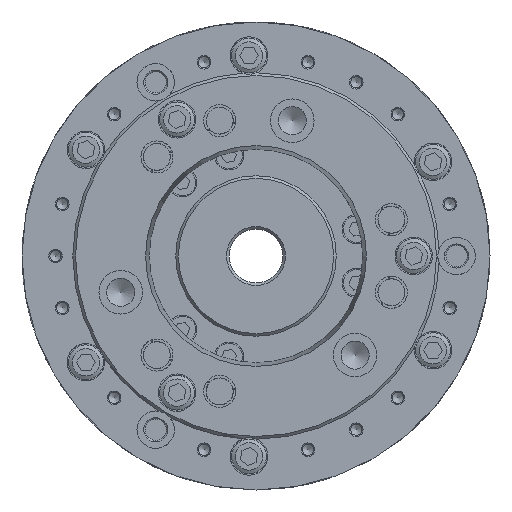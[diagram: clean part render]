
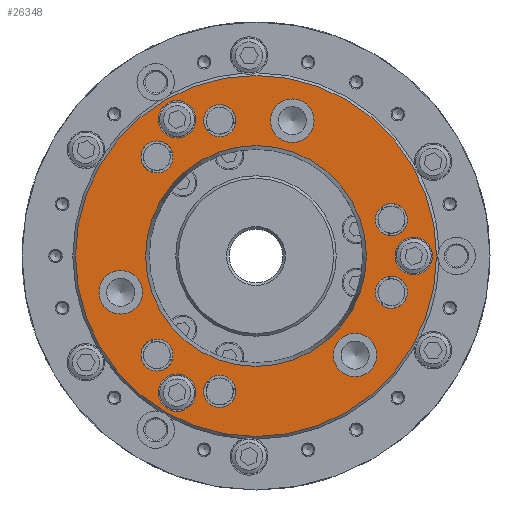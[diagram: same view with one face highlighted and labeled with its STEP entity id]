
A CAD part, left-side view. The second image highlights one B-rep face of the part: STEP entity #26348.
In plain terms, the highlighted planar face has unit normal (-1, 0, 0).
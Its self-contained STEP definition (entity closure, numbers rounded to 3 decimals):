
#305 = DIRECTION ( 'NONE',  ( 0., 0., 1. ) ) ;
#516 = CIRCLE ( 'NONE', #50851, 7. ) ;
#862 = VERTEX_POINT ( 'NONE', #50616 ) ;
#974 = ORIENTED_EDGE ( 'NONE', *, *, #29362, .T. ) ;
#1268 = FACE_BOUND ( 'NONE', #29846, .T. ) ;
#1476 = CARTESIAN_POINT ( 'NONE',  ( -95., 29.5, -51.095 ) ) ;
#1607 = EDGE_CURVE ( 'NONE', #58508, #58508, #27416, .T. ) ;
#1718 = FACE_BOUND ( 'NONE', #64974, .T. ) ;
#1866 = EDGE_LOOP ( 'NONE', ( #12993 ) ) ;
#2582 = AXIS2_PLACEMENT_3D ( 'NONE', #62316, #52143, #6554 ) ;
#2590 = FACE_BOUND ( 'NONE', #16090, .T. ) ;
#3552 = DIRECTION ( 'NONE',  ( -1., 0., 0. ) ) ;
#3983 = DIRECTION ( 'NONE',  ( 0., -0.866, -0.5 ) ) ;
#4335 = EDGE_CURVE ( 'NONE', #44246, #44246, #8217, .T. ) ;
#4579 = DIRECTION ( 'NONE',  ( -1., 0., 0. ) ) ;
#4590 = EDGE_LOOP ( 'NONE', ( #62766 ) ) ;
#5617 = DIRECTION ( 'NONE',  ( 1., 0., 0. ) ) ;
#6554 = DIRECTION ( 'NONE',  ( 0., 0., 1. ) ) ;
#6642 = FACE_BOUND ( 'NONE', #27520, .T. ) ;
#6841 = CARTESIAN_POINT ( 'NONE',  ( -95., 13.56, -50.605 ) ) ;
#8060 = EDGE_CURVE ( 'NONE', #25330, #25330, #20662, .T. ) ;
#8217 = CIRCLE ( 'NONE', #55046, 67.5 ) ;
#8685 = VERTEX_POINT ( 'NONE', #30759 ) ;
#8833 = FACE_BOUND ( 'NONE', #13578, .T. ) ;
#9681 = EDGE_CURVE ( 'NONE', #62450, #62450, #48811, .T. ) ;
#9862 = EDGE_LOOP ( 'NONE', ( #42633 ) ) ;
#10106 = ORIENTED_EDGE ( 'NONE', *, *, #1607, .F. ) ;
#10219 = VERTEX_POINT ( 'NONE', #15089 ) ;
#10963 = AXIS2_PLACEMENT_3D ( 'NONE', #1476, #25879, #26769 ) ;
#11095 = CARTESIAN_POINT ( 'NONE',  ( -95., -59., 0. ) ) ;
#11801 = FACE_BOUND ( 'NONE', #1866, .T. ) ;
#12460 = VERTEX_POINT ( 'NONE', #58075 ) ;
#12793 = DIRECTION ( 'NONE',  ( 1., 0., 0. ) ) ;
#12993 = ORIENTED_EDGE ( 'NONE', *, *, #9681, .T. ) ;
#13138 = CARTESIAN_POINT ( 'NONE',  ( -95., 37.045, -43.045 ) ) ;
#13578 = EDGE_LOOP ( 'NONE', ( #31024 ) ) ;
#13860 = DIRECTION ( 'NONE',  ( -1., 0., 0. ) ) ;
#14056 = CARTESIAN_POINT ( 'NONE',  ( -95., 29.5, 51.095 ) ) ;
#14132 = VERTEX_POINT ( 'NONE', #51478 ) ;
#14228 = CARTESIAN_POINT ( 'NONE',  ( -95., -37.045, -28.905 ) ) ;
#15089 = CARTESIAN_POINT ( 'NONE',  ( -95., -55.801, 10.56 ) ) ;
#15921 = CIRCLE ( 'NONE', #23836, 6. ) ;
#16050 = AXIS2_PLACEMENT_3D ( 'NONE', #60297, #4579, #39691 ) ;
#16090 = EDGE_LOOP ( 'NONE', ( #974 ) ) ;
#16756 = DIRECTION ( 'NONE',  ( -1., 0., 0. ) ) ;
#17894 = EDGE_LOOP ( 'NONE', ( #10106 ) ) ;
#17934 = ORIENTED_EDGE ( 'NONE', *, *, #55632, .F. ) ;
#18573 = DIRECTION ( 'NONE',  ( 0., 0., -1. ) ) ;
#18832 = CARTESIAN_POINT ( 'NONE',  ( -95., 0., 0. ) ) ;
#20662 = CIRCLE ( 'NONE', #36222, 6. ) ;
#20940 = EDGE_CURVE ( 'NONE', #50533, #50533, #23829, .T. ) ;
#21042 = CARTESIAN_POINT ( 'NONE',  ( -95., 18.756, -53.605 ) ) ;
#21435 = AXIS2_PLACEMENT_3D ( 'NONE', #6841, #16756, #31955 ) ;
#21702 = CARTESIAN_POINT ( 'NONE',  ( -95., -13.56, 58.745 ) ) ;
#22008 = CARTESIAN_POINT ( 'NONE',  ( -95., -50.605, -13.56 ) ) ;
#22908 = AXIS2_PLACEMENT_3D ( 'NONE', #51051, #45307, #55927 ) ;
#23151 = ORIENTED_EDGE ( 'NONE', *, *, #48946, .T. ) ;
#23163 = DIRECTION ( 'NONE',  ( 0., 0., 1. ) ) ;
#23321 = CIRCLE ( 'NONE', #21435, 6. ) ;
#23829 = CIRCLE ( 'NONE', #22908, 8.14 ) ;
#23836 = AXIS2_PLACEMENT_3D ( 'NONE', #22008, #42928, #42497 ) ;
#24078 = CARTESIAN_POINT ( 'NONE',  ( -95., 0., 0. ) ) ;
#25041 = FACE_BOUND ( 'NONE', #58199, .T. ) ;
#25330 = VERTEX_POINT ( 'NONE', #33658 ) ;
#25457 = AXIS2_PLACEMENT_3D ( 'NONE', #60218, #60435, #35276 ) ;
#25865 = ORIENTED_EDGE ( 'NONE', *, *, #59768, .F. ) ;
#25879 = DIRECTION ( 'NONE',  ( -1., 0., 0. ) ) ;
#26348 = ADVANCED_FACE ( 'NONE', ( #47132, #1268, #62718, #38869, #51041, #2590, #8833, #30875, #1718, #54396, #25041, #6642, #11801, #63091 ), #35281, .T. ) ;
#26769 = DIRECTION ( 'NONE',  ( 0., 0., 1. ) ) ;
#27416 = CIRCLE ( 'NONE', #10963, 7. ) ;
#27520 = EDGE_LOOP ( 'NONE', ( #52262 ) ) ;
#27809 = DIRECTION ( 'NONE',  ( 0., 0., -1. ) ) ;
#28229 = CARTESIAN_POINT ( 'NONE',  ( -95., 37.045, 37.045 ) ) ;
#28414 = EDGE_LOOP ( 'NONE', ( #37712 ) ) ;
#29362 = EDGE_CURVE ( 'NONE', #862, #862, #44514, .T. ) ;
#29846 = EDGE_LOOP ( 'NONE', ( #35209 ) ) ;
#29888 = VERTEX_POINT ( 'NONE', #56550 ) ;
#30759 = CARTESIAN_POINT ( 'NONE',  ( -95., -55.801, -10.56 ) ) ;
#30777 = CIRCLE ( 'NONE', #45513, 6. ) ;
#30875 = FACE_BOUND ( 'NONE', #4590, .T. ) ;
#31024 = ORIENTED_EDGE ( 'NONE', *, *, #37748, .F. ) ;
#31955 = DIRECTION ( 'NONE',  ( 0., 0.866, -0.5 ) ) ;
#31998 = CIRCLE ( 'NONE', #2582, 8.14 ) ;
#32899 = CIRCLE ( 'NONE', #25457, 8.14 ) ;
#32917 = DIRECTION ( 'NONE',  ( 0., 0.866, 0.5 ) ) ;
#33089 = CARTESIAN_POINT ( 'NONE',  ( -95., 37.045, -37.045 ) ) ;
#33658 = CARTESIAN_POINT ( 'NONE',  ( -95., 37.045, 43.045 ) ) ;
#33891 = EDGE_CURVE ( 'NONE', #8685, #8685, #15921, .T. ) ;
#34398 = EDGE_LOOP ( 'NONE', ( #58356 ) ) ;
#34594 = CARTESIAN_POINT ( 'NONE',  ( -95., 29.5, -44.095 ) ) ;
#35209 = ORIENTED_EDGE ( 'NONE', *, *, #20940, .F. ) ;
#35276 = DIRECTION ( 'NONE',  ( 0., 0., 1. ) ) ;
#35281 = PLANE ( 'NONE',  #49344 ) ;
#36222 = AXIS2_PLACEMENT_3D ( 'NONE', #28229, #13860, #23163 ) ;
#37349 = CARTESIAN_POINT ( 'NONE',  ( -95., 13.56, 50.605 ) ) ;
#37712 = ORIENTED_EDGE ( 'NONE', *, *, #4335, .F. ) ;
#37748 = EDGE_CURVE ( 'NONE', #10219, #10219, #52492, .T. ) ;
#38869 = FACE_BOUND ( 'NONE', #51023, .T. ) ;
#39691 = DIRECTION ( 'NONE',  ( 0., -0.866, -0.5 ) ) ;
#40636 = DIRECTION ( 'NONE',  ( 1., 0., 0. ) ) ;
#42497 = DIRECTION ( 'NONE',  ( 0., -0.866, 0.5 ) ) ;
#42633 = ORIENTED_EDGE ( 'NONE', *, *, #59220, .F. ) ;
#42928 = DIRECTION ( 'NONE',  ( 1., 0., 0. ) ) ;
#44113 = VERTEX_POINT ( 'NONE', #21702 ) ;
#44246 = VERTEX_POINT ( 'NONE', #63227 ) ;
#44514 = CIRCLE ( 'NONE', #54577, 7. ) ;
#44779 = EDGE_CURVE ( 'NONE', #56805, #56805, #23321, .T. ) ;
#45238 = AXIS2_PLACEMENT_3D ( 'NONE', #18832, #5617, #56731 ) ;
#45307 = DIRECTION ( 'NONE',  ( -1., 0., 0. ) ) ;
#45513 = AXIS2_PLACEMENT_3D ( 'NONE', #37349, #63145, #32917 ) ;
#45706 = DIRECTION ( 'NONE',  ( 0., 0.866, 0.5 ) ) ;
#45864 = DIRECTION ( 'NONE',  ( -1., 0., 0. ) ) ;
#47132 = FACE_BOUND ( 'NONE', #53575, .T. ) ;
#47841 = CIRCLE ( 'NONE', #45238, 41.281 ) ;
#48777 = DIRECTION ( 'NONE',  ( 1., 0., 0. ) ) ;
#48811 = CIRCLE ( 'NONE', #63737, 6. ) ;
#48946 = EDGE_CURVE ( 'NONE', #14132, #14132, #47841, .T. ) ;
#49344 = AXIS2_PLACEMENT_3D ( 'NONE', #50518, #45864, #305 ) ;
#50518 = CARTESIAN_POINT ( 'NONE',  ( -95., 33.75, -58.457 ) ) ;
#50533 = VERTEX_POINT ( 'NONE', #14228 ) ;
#50616 = CARTESIAN_POINT ( 'NONE',  ( -95., -52.938, 3.5 ) ) ;
#50851 = AXIS2_PLACEMENT_3D ( 'NONE', #14056, #3552, #3983 ) ;
#51023 = EDGE_LOOP ( 'NONE', ( #23151 ) ) ;
#51041 = FACE_OUTER_BOUND ( 'NONE', #28414, .T. ) ;
#51051 = CARTESIAN_POINT ( 'NONE',  ( -95., -37.045, -37.045 ) ) ;
#51478 = CARTESIAN_POINT ( 'NONE',  ( -95., 0., -41.282 ) ) ;
#52143 = DIRECTION ( 'NONE',  ( -1., 0., 0. ) ) ;
#52262 = ORIENTED_EDGE ( 'NONE', *, *, #44779, .F. ) ;
#52492 = CIRCLE ( 'NONE', #16050, 6. ) ;
#53575 = EDGE_LOOP ( 'NONE', ( #17934 ) ) ;
#54396 = FACE_BOUND ( 'NONE', #34398, .T. ) ;
#54577 = AXIS2_PLACEMENT_3D ( 'NONE', #11095, #40636, #45706 ) ;
#55046 = AXIS2_PLACEMENT_3D ( 'NONE', #24078, #48777, #18573 ) ;
#55632 = EDGE_CURVE ( 'NONE', #44113, #44113, #31998, .T. ) ;
#55861 = ORIENTED_EDGE ( 'NONE', *, *, #8060, .F. ) ;
#55927 = DIRECTION ( 'NONE',  ( 0., 0., 1. ) ) ;
#55974 = VERTEX_POINT ( 'NONE', #57209 ) ;
#56550 = CARTESIAN_POINT ( 'NONE',  ( -95., 23.438, 47.595 ) ) ;
#56731 = DIRECTION ( 'NONE',  ( 0., 0., -1. ) ) ;
#56805 = VERTEX_POINT ( 'NONE', #21042 ) ;
#57209 = CARTESIAN_POINT ( 'NONE',  ( -95., 50.605, -5.42 ) ) ;
#58075 = CARTESIAN_POINT ( 'NONE',  ( -95., 18.756, 53.605 ) ) ;
#58199 = EDGE_LOOP ( 'NONE', ( #55861 ) ) ;
#58356 = ORIENTED_EDGE ( 'NONE', *, *, #63642, .T. ) ;
#58508 = VERTEX_POINT ( 'NONE', #34594 ) ;
#59220 = EDGE_CURVE ( 'NONE', #55974, #55974, #32899, .T. ) ;
#59768 = EDGE_CURVE ( 'NONE', #29888, #29888, #516, .T. ) ;
#60218 = CARTESIAN_POINT ( 'NONE',  ( -95., 50.605, -13.56 ) ) ;
#60297 = CARTESIAN_POINT ( 'NONE',  ( -95., -50.605, 13.56 ) ) ;
#60435 = DIRECTION ( 'NONE',  ( -1., 0., 0. ) ) ;
#62316 = CARTESIAN_POINT ( 'NONE',  ( -95., -13.56, 50.605 ) ) ;
#62450 = VERTEX_POINT ( 'NONE', #13138 ) ;
#62718 = FACE_BOUND ( 'NONE', #9862, .T. ) ;
#62766 = ORIENTED_EDGE ( 'NONE', *, *, #33891, .T. ) ;
#63091 = FACE_BOUND ( 'NONE', #17894, .T. ) ;
#63145 = DIRECTION ( 'NONE',  ( 1., 0., 0. ) ) ;
#63227 = CARTESIAN_POINT ( 'NONE',  ( -95., 0., -67.5 ) ) ;
#63642 = EDGE_CURVE ( 'NONE', #12460, #12460, #30777, .T. ) ;
#63737 = AXIS2_PLACEMENT_3D ( 'NONE', #33089, #12793, #27809 ) ;
#64974 = EDGE_LOOP ( 'NONE', ( #25865 ) ) ;
